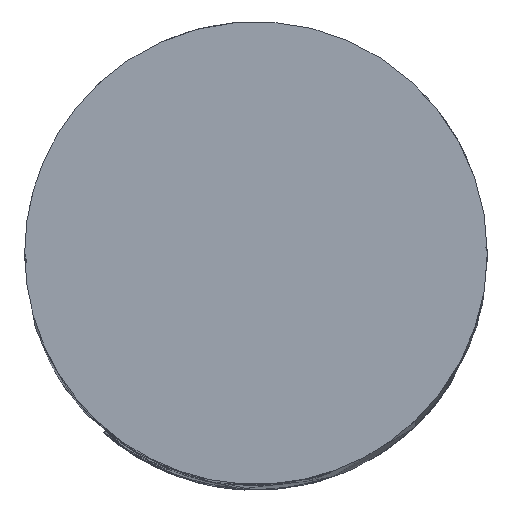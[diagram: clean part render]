
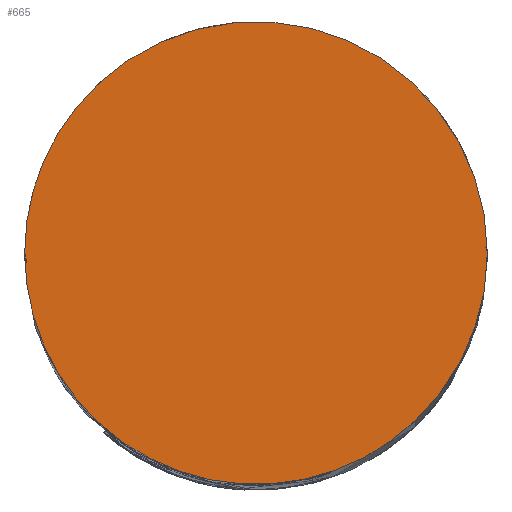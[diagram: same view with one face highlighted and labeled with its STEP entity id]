
A CAD part, top view. The second image highlights one B-rep face of the part: STEP entity #665.
In plain terms, the highlighted planar face has unit normal (0, 0, 1).
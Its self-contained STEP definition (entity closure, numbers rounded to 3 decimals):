
#602=AXIS2_PLACEMENT_3D('Circle Axis2P3D',#600,#601,$) ;
#643=AXIS2_PLACEMENT_3D('Circle Axis2P3D',#641,#642,$) ;
#657=AXIS2_PLACEMENT_3D('Plane Axis2P3D',#654,#655,#656) ;
#419=CARTESIAN_POINT('Vertex',(2.752,-2.903,36.)) ;
#423=CARTESIAN_POINT('Control Point',(2.752,-2.903,36.)) ;
#424=CARTESIAN_POINT('Control Point',(2.076,-3.544,36.)) ;
#425=CARTESIAN_POINT('Control Point',(1.213,-3.988,36.)) ;
#426=CARTESIAN_POINT('Control Point',(0.239,-4.162,36.)) ;
#427=CARTESIAN_POINT('Control Point',(-1.687,-3.924,36.)) ;
#428=CARTESIAN_POINT('Control Point',(-3.185,-2.689,36.)) ;
#429=CARTESIAN_POINT('Control Point',(-3.729,-1.864,36.)) ;
#430=CARTESIAN_POINT('Control Point',(-4.,-0.932,36.)) ;
#431=CARTESIAN_POINT('Control Point',(-4.,0.,36.)) ;
#432=CARTESIAN_POINT('Vertex',(-4.,0.,36.)) ;
#470=CARTESIAN_POINT('Control Point',(-4.,0.,36.)) ;
#471=CARTESIAN_POINT('Control Point',(-4.,0.812,36.)) ;
#472=CARTESIAN_POINT('Control Point',(-3.78,1.625,36.)) ;
#473=CARTESIAN_POINT('Control Point',(-3.341,2.344,36.)) ;
#474=CARTESIAN_POINT('Control Point',(-2.752,2.903,36.)) ;
#475=CARTESIAN_POINT('Vertex',(-2.752,2.903,36.)) ;
#600=CARTESIAN_POINT('Axis2P3D Location',(0.,0.,36.)) ;
#604=CARTESIAN_POINT('Vertex',(4.,0.,36.)) ;
#641=CARTESIAN_POINT('Axis2P3D Location',(0.,0.,36.)) ;
#654=CARTESIAN_POINT('Axis2P3D Location',(0.,0.,36.)) ;
#601=DIRECTION('Axis2P3D Direction',(0.,0.,-1.)) ;
#642=DIRECTION('Axis2P3D Direction',(0.,0.,-1.)) ;
#655=DIRECTION('Axis2P3D Direction',(0.,-0.,-1.)) ;
#656=DIRECTION('Axis2P3D XDirection',(-0.667,-0.745,0.)) ;
#660=ORIENTED_EDGE('',*,*,#477,.F.) ;
#661=ORIENTED_EDGE('',*,*,#434,.F.) ;
#662=ORIENTED_EDGE('',*,*,#645,.F.) ;
#663=ORIENTED_EDGE('',*,*,#606,.F.) ;
#665=ADVANCED_FACE('NOCUT',(#664),#658,.F.) ;
#422=B_SPLINE_CURVE_WITH_KNOTS('',5,(#423,#424,#425,#426,#427,#428,#429,#430,#431),.UNSPECIFIED.,.F.,.U.,(6,3,6),(-4.659,0.,4.659),.UNSPECIFIED.) ;
#469=B_SPLINE_CURVE_WITH_KNOTS('',4,(#470,#471,#472,#473,#474),.UNSPECIFIED.,.F.,.U.,(5,5),(-1.624,1.624),.UNSPECIFIED.) ;
#603=CIRCLE('generated circle',#602,4.) ;
#644=CIRCLE('generated circle',#643,4.) ;
#434=EDGE_CURVE('',#420,#433,#422,.T.) ;
#477=EDGE_CURVE('',#433,#476,#469,.T.) ;
#606=EDGE_CURVE('',#476,#605,#603,.T.) ;
#645=EDGE_CURVE('',#605,#420,#644,.T.) ;
#659=EDGE_LOOP('',(#660,#661,#662,#663)) ;
#664=FACE_OUTER_BOUND('',#659,.T.) ;
#658=PLANE('',#657) ;
#420=VERTEX_POINT('',#419) ;
#433=VERTEX_POINT('',#432) ;
#476=VERTEX_POINT('',#475) ;
#605=VERTEX_POINT('',#604) ;
